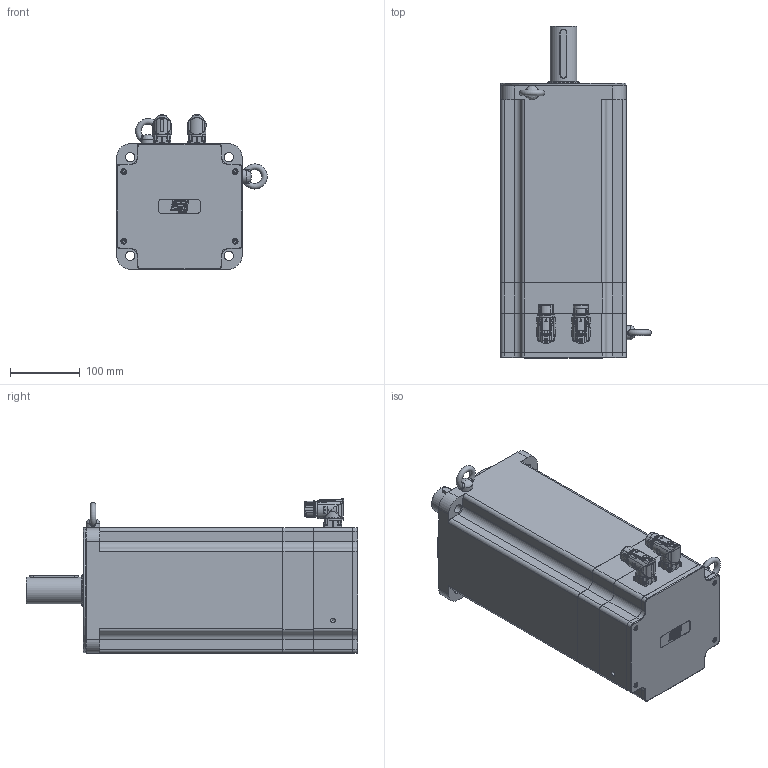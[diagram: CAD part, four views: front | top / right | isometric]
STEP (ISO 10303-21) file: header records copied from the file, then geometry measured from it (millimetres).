
FILE_DESCRIPTION(/* description */ ('Unknown'),/* implementation_level */ '2;1');
FILE_NAME(/* name */ 'TC4-180.7F.X X.X.3.XX.1.X.G2.00.00 Q0B808',/* time_stamp */ '2026-03-10T14:23:45+01:00',/* author */ ('Unknown'),/* organization */ ('Unknown'),/* preprocessor_version */ 'ST-DEVELOPER v19.4',/* originating_system */ 'Solid Edge',/* authorisation */ 'Unknown');
FILE_SCHEMA (('AUTOMOTIVE_DESIGN {1 0 10303 214 3 1 1}'));
Products named in the file (16): Q0B808 7F FRENO VUOTO; 007117000456; 005256003057; 003103040231; 003155002230; Coperchio campana TC4-180; 005113001040; 003003200016; 005119001104; 005911000185; 005911000479; 003120003175; 005321000010; 005911000180; 003251040631; 007117000454
Assembly tree (33 placements, depth 2):
  Q0B808 7F FRENO VUOTO
    007117000456
    005256003057
    003103040231
    003155002230
    Coperchio campana TC4-180
    005113001040
    003003200016
    005119001104
    005911000185  x8
    005911000479  x8
    003120003175
    005321000010  x2
    005911000180  x4
    003251040631
    007117000454
Bounding box: 215.97 x 476 x 221.5 mm (x, y, z)
Volume: 4654444.5 mm3; surface area: 1002444.4 mm2
Topology: 34 solids, 60 shells, 2593 faces, 6856 edges, 4466 vertices
Faces by surface type: plane 1070, cylinder 695, cone 332, bspline 290, torus 147, sphere 59
Full cylindrical faces by diameter (mm): 0.5 x1, 1 x21, 1.2 x17, 1.4 x4, 2 x4, 2.013 x16, 2.5 x8, 2.8 x4, 3 x12, 3.242 x12, 4 x5, 4.134 x16, 4.2 x8, 4.5 x10, 4.7 x8, 4.917 x6, 5 x8, 5.5 x10, 5.8 x1, 5.9 x2, 6.647 x14, 6.8 x1, 7 x6, 8 x8, 9 x4, 10 x5, 10.106 x2, 14 x4, 15.2 x1, 17.4 x3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
Entity records: 92207 total; most frequent: CARTESIAN_POINT 24089, ORIENTED_EDGE 10900, DIRECTION 10865, EDGE_CURVE 5658, AXIS2_PLACEMENT_3D 4198, VERTEX_POINT 3965, FACE_BOUND 3070, EDGE_LOOP 3037
